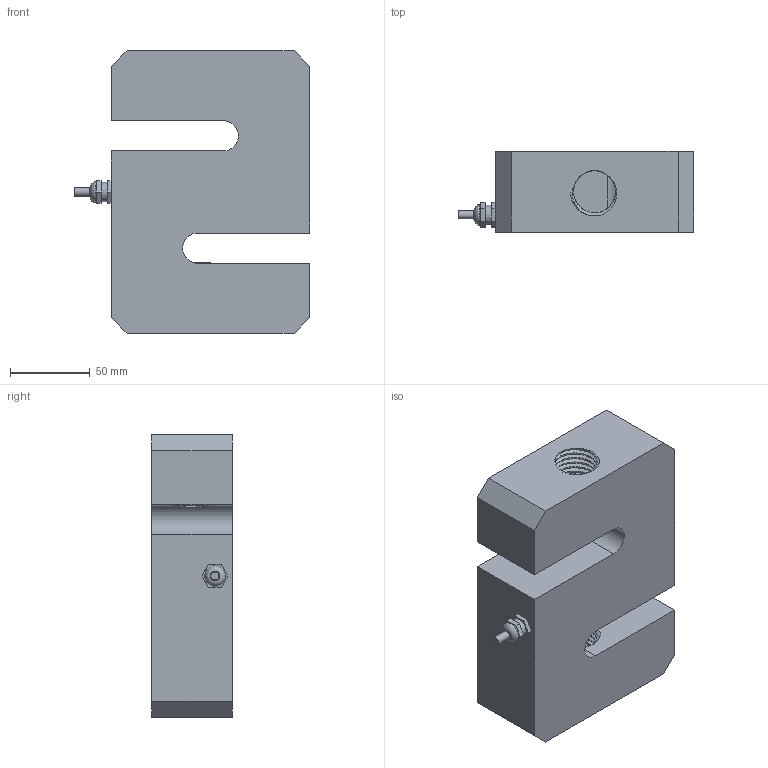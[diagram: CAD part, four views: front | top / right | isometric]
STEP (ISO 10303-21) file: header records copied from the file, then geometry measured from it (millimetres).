
FILE_DESCRIPTION(/* description */ (''),/* implementation_level */ '2;1');
FILE_NAME(/* name */ 'C:/Users/fardi/Dropbox/Anyload/Load Cell Models/3D Drawing/101/101BH-10t v3.step',/* time_stamp */ '2020-01-22T15:47:55-08:00',/* author */ (''),/* organization */ (''),/* preprocessor_version */ 'ST-DEVELOPER v18',/* originating_system */ 'Autodesk Translation Framework v8.12.0.6',/* authorisation */ '');
FILE_SCHEMA (('AUTOMOTIVE_DESIGN { 1 0 10303 214 3 1 1 }'));
Length unit declared in the file: millimetre
Products named in the file (2): 101BH-10t; Connector v1
Assembly tree (1 placements, depth 2):
  101BH-10t
    Connector v1
Bounding box: 148.36 x 50.8 x 177.8 mm (x, y, z)
Volume: 880783.3 mm3; surface area: 105962.7 mm2
Topology: 2 solids, 5 shells, 127 faces, 319 edges, 205 vertices
Faces by surface type: cylinder 77, plane 43, bspline 7
Full cylindrical faces by diameter (mm): 5.1 x1, 10 x1, 12 x1, 13 x1, 26.491 x26, 30.392 x32, 35.6 x1, 36.2 x2, 39.4 x2
Entity records: 10066 total; most frequent: CARTESIAN_POINT 7221, ORIENTED_EDGE 638, DIRECTION 465, EDGE_CURVE 319, VERTEX_POINT 205, LINE 155, VECTOR 155, AXIS2_PLACEMENT_3D 155
